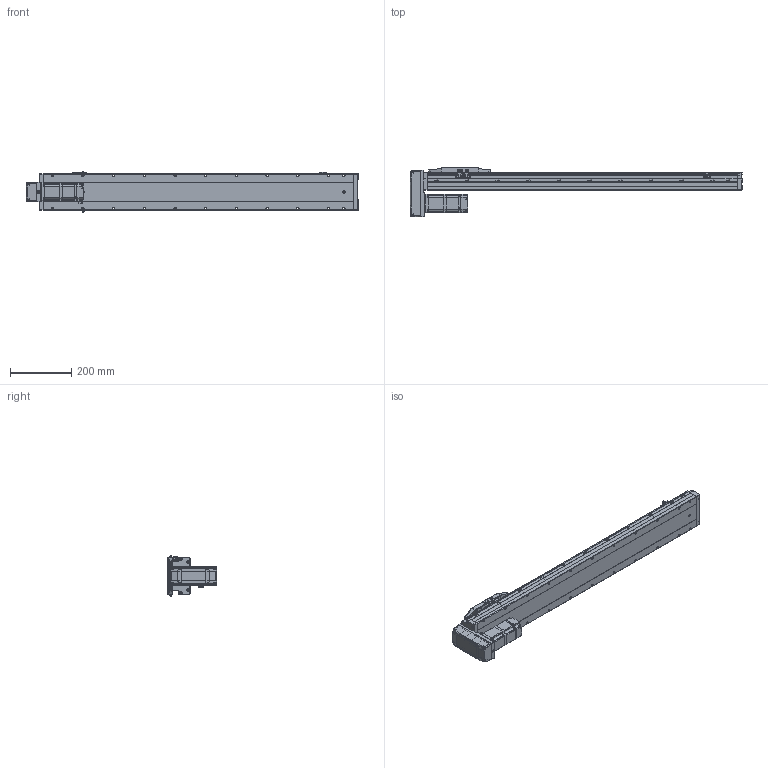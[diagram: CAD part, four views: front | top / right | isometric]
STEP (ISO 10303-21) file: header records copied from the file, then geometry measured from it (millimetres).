
FILE_DESCRIPTION (( 'STEP AP214' ), '1' );
FILE_NAME ('CTH12-L10-S800-BM-C40（简）.STEP', '2023-02-04T06:46:20', ( '' ), ( '' ), 'SwSTEP 2.0', 'SolidWorks 2018', '' );
FILE_SCHEMA (( 'AUTOMOTIVE_DESIGN' ));
Length unit declared in the file: millimetre
Products named in the file (25): CTH12-BM-02; 嫖萇羲壽郪磁2; 内六角圆柱头螺钉M3-2; CTH8耜蚾蟀諉啣ㄗ潠ㄘ; CTH嫖萇羲壽假蚾啣; 湮賑怢  裔赽-1(CTH12)賑怢; BM-C40; CTH12; CTH12-L10-S800-BM-C40（简）; AC60_Valor predeterminado; 内六角圆柱头螺钉M3; PM-Y45; CTH12_body_3; CTH12覜茼え; 内六角圆柱头螺钉M3-1; 内六角圆柱头螺钉M5装饰螺钉; CTH12底座-L1011简（800行程）; 嫖萇羲壽郪磁1; CTH400W垫板（3个厚）; CTH12賑怢郪磁; CTH12-BL_body_4; CTH400W假蚾啣; CTH12賑怢ㄗ潠ㄘ; hex nuts, style 1-grades ab gb_GB_FASTENER_NUT_SNAB1 M3-N; 蚐郲
Assembly tree (45 placements, depth 4):
  CTH12-L10-S800-BM-C40（简）
    CTH12底座-L1011简（800行程）
    蚐郲  x2
    CTH12_body_3
    CTH12-BL_body_4
    CTH12賑怢郪磁
      CTH12
        湮賑怢  裔赽-1(CTH12)賑怢
        CTH12賑怢ㄗ潠ㄘ
    CTH12覜茼え
    嫖萇羲壽郪磁1  x2
      CTH嫖萇羲壽假蚾啣
      PM-Y45
      内六角圆柱头螺钉M3-2
      内六角圆柱头螺钉M3-1
      hex nuts, style 1-grades ab gb_GB_FASTENER_NUT_SNAB1 M3-N
    嫖萇羲壽郪磁2
      CTH嫖萇羲壽假蚾啣
      PM-Y45
      内六角圆柱头螺钉M3-1  x2
      内六角圆柱头螺钉M3-2  x2
      hex nuts, style 1-grades ab gb_GB_FASTENER_NUT_SNAB1 M3-N  x2
    BM-C40
      CTH12-BM-02
      CTH8耜蚾蟀諉啣ㄗ潠ㄘ
    CTH400W垫板（3个厚）
    AC60_Valor predeterminado
    内六角圆柱头螺钉M3  x6
    内六角圆柱头螺钉M5装饰螺钉  x4
    CTH400W假蚾啣
Bounding box: 1081.5 x 162.5 x 131.52 mm (x, y, z)
Volume: 7326771.2 mm3; surface area: 687338.2 mm2
Topology: 47 solids, 48 shells, 2874 faces, 7286 edges, 4631 vertices
Faces by surface type: plane 1534, cylinder 847, cone 327, bspline 114, torus 52
Entity records: 79761 total; most frequent: CARTESIAN_POINT 19085, ORIENTED_EDGE 11752, DIRECTION 11677, EDGE_CURVE 5876, AXIS2_PLACEMENT_3D 3979, VERTEX_POINT 3735, VECTOR 3719, LINE 3719
